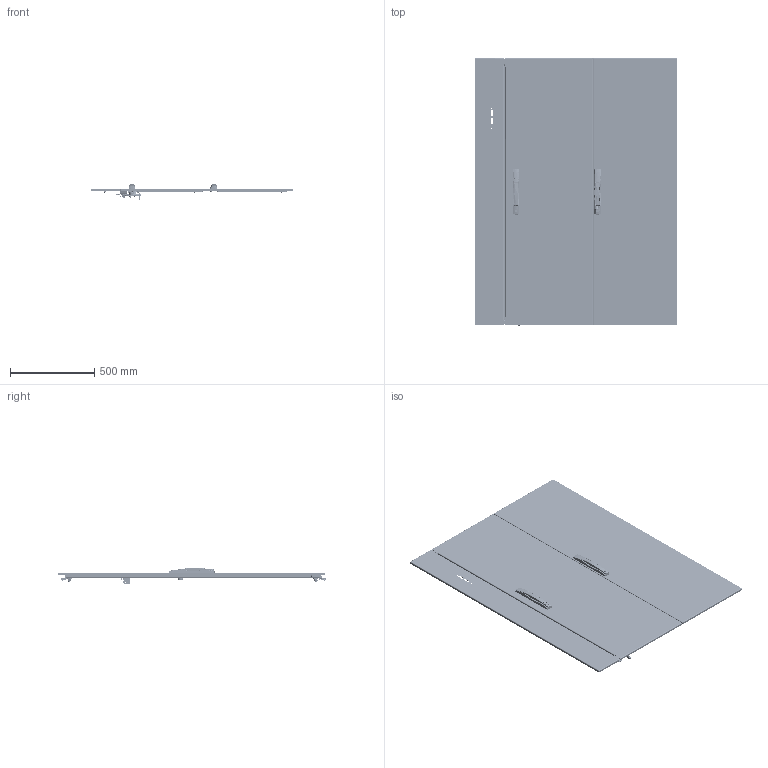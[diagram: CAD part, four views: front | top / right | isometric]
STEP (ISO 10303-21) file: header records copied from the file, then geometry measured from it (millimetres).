
FILE_DESCRIPTION (( 'STEP AP203' ), '1' );
FILE_NAME ('p2ddl1612.STEP', '2016-05-26T17:55:15', ( '' ), ( '' ), 'SwSTEP 2.0', 'SolidWorks 2014', '' );
FILE_SCHEMA (( 'CONFIG_CONTROL_DESIGN' ));
Length unit declared in the file: millimetre
Products named in the file (99): 87931362_87931362; 89133326_89128789; 87960063; 60127093; 89137319; 51231001; 87402653_87402653; 60127277_60127277; 11158435_11158435; 87576035_87576035; 11258702_11258702; 89128836_89128836; 89137366; 87931527_87931527; 99405181; 51137001; 87780489; 11258014; 89137142_89137142; 11458037; 46139003_46139003; 60127216_60127216; 64205001; 89126142_89124180; 89135169_89133277; 87931368_SLEEVE; 99407272; 60127208; 89137321_FIP GASKET; 46139001_46139001; 87781204_87781204; 11458036; 51155001_51155001; 60127139_60127139; 87541995; 89133331_89128831; 89137354; 60100041_60100041; 31122001_31122001; 60127212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
Assembly tree (200 placements, depth 5):
  p2ddl1612
    89137485_BBD
      89133327_89133327
        89133326_89128789
        60100041_60100041  x2
          87931527_87931527
          87931368_SLEEVE
        89124458_After Weld  x3
        60127172_60127172  x3
        87920638_87920638  x12
      89133331_89128831
        89091664_875472289  x4
        89128836_89128836  x2
        89126142_89124180  x2
      89137486_FIP GASKET
      89130000
        89128805
        60127175_60127175  x2
        60127216_60127216  x3
          60127140_60127140
          60127138_60127138
          87576035_87576035
        60127139_60127139  x4
        11158132_THIKNESS .155 FIXED  x8
        11158133_11581133  x3
      60127277_60127277  x3
        51232001_51232001
        60127173_60127173
      89134078_87924693
        11458037
        11458036
        51140001
        11358764
        11258013
        11258012
        11358763
        51231001
        11258014
        46139001_46139001  x2
        51145001_Extended
        11358765
        46120001_Compressed
        51223001
        51138001_Compressed
        60127093
        51137001
        60127208
        60127212
        60127207
    89137369_BBD
      89137366
        89137367_Formed
        60100041_60100041  x2
          87931527_87931527
          87931368_SLEEVE
        89124458_After Weld  x3
        87920638_87920638  x12
        87931362_87931362  x8
      89137354
        89091664_875472289  x4
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Bounding box: 1197.9 x 1586.54 x 94.3 mm (x, y, z)
Volume: 5783553 mm3; surface area: 6342303.8 mm2
Topology: 195 solids, 203 shells, 14642 faces, 37387 edges, 23425 vertices
Faces by surface type: plane 6302, cylinder 5045, torus 1455, bspline 1025, cone 741, sphere 74
Entity records: 226991 total; most frequent: CARTESIAN_POINT 72265, ORIENTED_EDGE 30270, DIRECTION 28487, EDGE_CURVE 15139, AXIS2_PLACEMENT_3D 10281, VERTEX_POINT 9568, LINE 7925, VECTOR 7925
